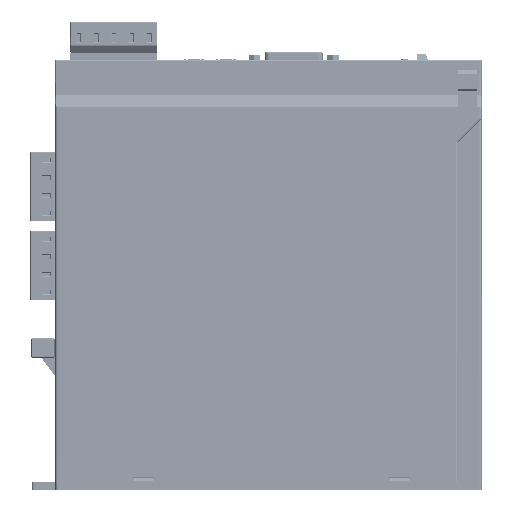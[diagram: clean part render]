
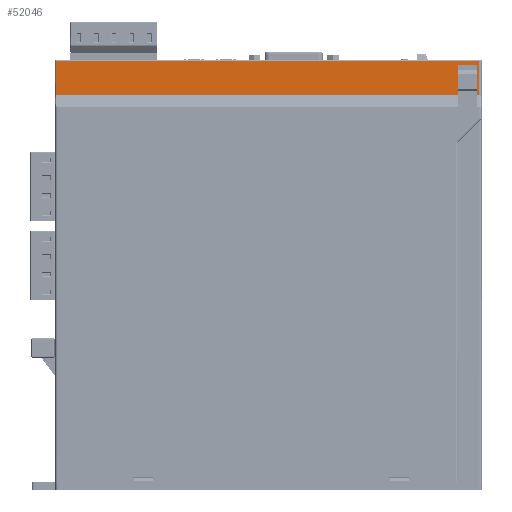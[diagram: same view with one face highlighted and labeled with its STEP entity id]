
A CAD part, front view. The second image highlights one B-rep face of the part: STEP entity #52046.
In plain terms, the highlighted planar face has unit normal (0, -1, 0) as drawn and (0, 0, 1) by its records, which use the part's own axes.
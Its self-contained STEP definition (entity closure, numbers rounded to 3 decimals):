
#27084=DIRECTION('',(1.,0.,0.));
#27085=VECTOR('',#27084,1.);
#27086=CARTESIAN_POINT('',(88.5,163.8,25.5));
#27087=LINE('',#27086,#27085);
#27116=DIRECTION('',(1.,0.,0.));
#27117=VECTOR('',#27116,170.7);
#27118=CARTESIAN_POINT('',(-90.2,163.8,25.5));
#27119=LINE('',#27118,#27117);
#33286=DIRECTION('',(-1.,0.,0.));
#33287=VECTOR('',#33286,179.7);
#33288=CARTESIAN_POINT('',(89.5,178.5,25.5));
#33289=LINE('',#33288,#33287);
#33290=DIRECTION('',(0.,-1.,0.));
#33291=VECTOR('',#33290,14.7);
#33292=CARTESIAN_POINT('',(89.5,178.5,25.5));
#33293=LINE('',#33292,#33291);
#33294=DIRECTION('',(0.,1.,0.));
#33295=VECTOR('',#33294,13.);
#33296=CARTESIAN_POINT('',(88.5,163.8,25.5));
#33297=LINE('',#33296,#33295);
#33298=DIRECTION('',(-1.,0.,0.));
#33299=VECTOR('',#33298,8.);
#33300=CARTESIAN_POINT('',(88.5,176.8,25.5));
#33301=LINE('',#33300,#33299);
#33302=DIRECTION('',(0.,1.,0.));
#33303=VECTOR('',#33302,13.);
#33304=CARTESIAN_POINT('',(80.5,163.8,25.5));
#33305=LINE('',#33304,#33303);
#33306=DIRECTION('',(0.,1.,0.));
#33307=VECTOR('',#33306,14.7);
#33308=CARTESIAN_POINT('',(-90.2,163.8,25.5));
#33309=LINE('',#33308,#33307);
#36482=CARTESIAN_POINT('',(88.5,163.8,25.5));
#36483=VERTEX_POINT('',#36482);
#36484=CARTESIAN_POINT('',(88.5,176.8,25.5));
#36485=VERTEX_POINT('',#36484);
#36486=CARTESIAN_POINT('',(80.5,176.8,25.5));
#36487=VERTEX_POINT('',#36486);
#36488=CARTESIAN_POINT('',(80.5,163.8,25.5));
#36489=VERTEX_POINT('',#36488);
#37343=CARTESIAN_POINT('',(89.5,163.8,25.5));
#37345=VERTEX_POINT('',#37343);
#37373=CARTESIAN_POINT('',(89.5,178.5,25.5));
#37374=VERTEX_POINT('',#37373);
#37379=CARTESIAN_POINT('',(-90.2,178.5,25.5));
#37380=VERTEX_POINT('',#37379);
#37391=CARTESIAN_POINT('',(-90.2,163.8,25.5));
#37392=VERTEX_POINT('',#37391);
#52028=CARTESIAN_POINT('',(90.5,178.8,25.5));
#52029=DIRECTION('',(0.,0.,-1.));
#52030=DIRECTION('',(-1.,0.,0.));
#52031=AXIS2_PLACEMENT_3D('',#52028,#52029,#52030);
#52032=PLANE('',#52031);
#52033=ORIENTED_EDGE('',*,*,#39639,.F.);
#52034=ORIENTED_EDGE('',*,*,#39669,.T.);
#52035=ORIENTED_EDGE('',*,*,#42643,.F.);
#52037=ORIENTED_EDGE('',*,*,#52036,.T.);
#52039=ORIENTED_EDGE('',*,*,#52038,.T.);
#52041=ORIENTED_EDGE('',*,*,#52040,.F.);
#52042=ORIENTED_EDGE('',*,*,#42658,.F.);
#52043=ORIENTED_EDGE('',*,*,#52022,.T.);
#52044=EDGE_LOOP('',(#52033,#52034,#52035,#52037,#52039,#52041,#52042,#52043));
#52045=FACE_OUTER_BOUND('',#52044,.F.);
#52046=ADVANCED_FACE('',(#52045),#52032,.F.);
#39639=EDGE_CURVE('',#37374,#37380,#33289,.T.);
#39669=EDGE_CURVE('',#37374,#37345,#33293,.T.);
#42643=EDGE_CURVE('',#36483,#37345,#27087,.T.);
#42658=EDGE_CURVE('',#37392,#36489,#27119,.T.);
#52022=EDGE_CURVE('',#37392,#37380,#33309,.T.);
#52036=EDGE_CURVE('',#36483,#36485,#33297,.T.);
#52038=EDGE_CURVE('',#36485,#36487,#33301,.T.);
#52040=EDGE_CURVE('',#36489,#36487,#33305,.T.);
